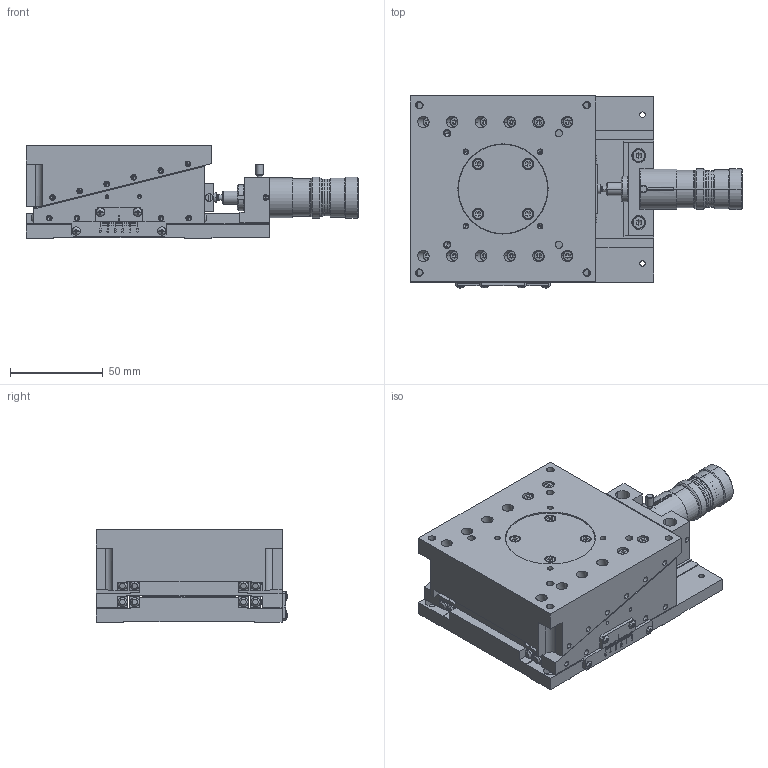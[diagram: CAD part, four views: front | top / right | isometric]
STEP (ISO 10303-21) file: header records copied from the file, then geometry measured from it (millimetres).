
FILE_DESCRIPTION (( 'STEP AP203' ), '1' );
FILE_NAME ('ZM10A-C3C.STEP', '2015-05-21T09:24:52', ( '' ), ( '' ), 'SwSTEP 2.0', 'SolidWorks 2011', '' );
FILE_SCHEMA (( 'CONFIG_CONTROL_DESIGN' ));
Products named in the file (4): ZM10A-C3C; base-37; table-28; wedge-3
Assembly tree (3 placements, depth 2):
  ZM10A-C3C
    table-28
    base-37
    wedge-3
Bounding box: 178.5 x 103.18 x 50 mm (x, y, z)
Volume: 463124.1 mm3; surface area: 131215.6 mm2
Topology: 3 solids, 87 shells, 2871 faces, 6326 edges, 3660 vertices
Faces by surface type: plane 1345, cylinder 881, cone 629, sphere 12, torus 4
Entity records: 77672 total; most frequent: DIRECTION 14229, CARTESIAN_POINT 13650, ORIENTED_EDGE 12212, EDGE_CURVE 6106, AXIS2_PLACEMENT_3D 5373, VERTEX_POINT 3660, LINE 3483, VECTOR 3483
